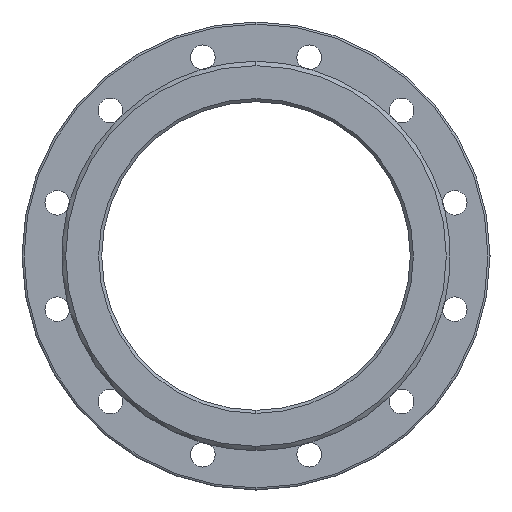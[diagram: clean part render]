
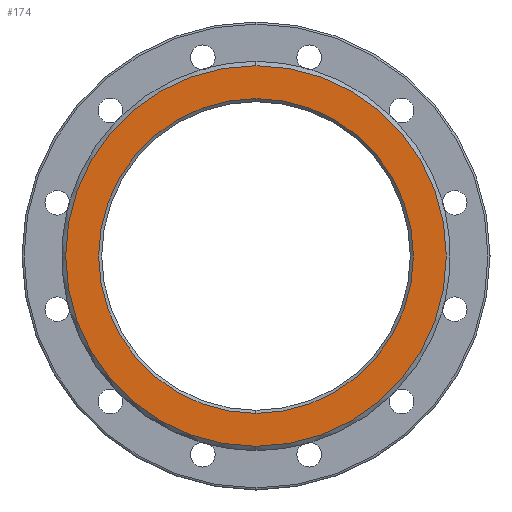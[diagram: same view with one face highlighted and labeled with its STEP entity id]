
A CAD part, left-side view. The second image highlights one B-rep face of the part: STEP entity #174.
In plain terms, the highlighted planar face has unit normal (-1, 0, 0).
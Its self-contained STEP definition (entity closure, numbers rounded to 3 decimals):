
#165 = DIRECTION ( 'NONE',  ( 0., 0., 1. ) ) ;
#174 = ADVANCED_FACE ( 'Defeatured_0_4', ( #4288, #213 ), #1099, .F. ) ;
#213 = FACE_OUTER_BOUND ( 'NONE', #2890, .T. ) ;
#230 = AXIS2_PLACEMENT_3D ( 'NONE', #1452, #3613, #5433 ) ;
#332 = DIRECTION ( 'NONE',  ( 1., 0., 0. ) ) ;
#546 = AXIS2_PLACEMENT_3D ( 'NONE', #1131, #4326, #165 ) ;
#551 = EDGE_CURVE ( 'Defeatured_0_4+Defeatured_0_2+Defeatured_0_2+Defeatured_0_2', #5335, #4298, #2789, .T. ) ;
#579 = ORIENTED_EDGE ( 'NONE', *, *, #2892, .T. ) ;
#605 = CARTESIAN_POINT ( 'NONE',  ( -250., 0., -185. ) ) ;
#613 = VERTEX_POINT ( 'NONE', #1059 ) ;
#807 = EDGE_CURVE ( 'Defeatured_0_4+Defeatured_0_37+Defeatured_0_37+Defeatured_0_37', #613, #984, #4319, .T. ) ;
#817 = ORIENTED_EDGE ( 'NONE', *, *, #551, .T. ) ;
#984 = VERTEX_POINT ( 'NONE', #3439 ) ;
#1059 = CARTESIAN_POINT ( 'NONE',  ( -250., 0., 153. ) ) ;
#1099 = PLANE ( 'NONE',  #5271 ) ;
#1107 = CARTESIAN_POINT ( 'NONE',  ( -250., 0., 185. ) ) ;
#1131 = CARTESIAN_POINT ( 'NONE',  ( -250., 0., 0. ) ) ;
#1200 = DIRECTION ( 'NONE',  ( 1., 0., 0. ) ) ;
#1452 = CARTESIAN_POINT ( 'NONE',  ( -250., 0., 0. ) ) ;
#2057 = CIRCLE ( 'NONE', #546, 185. ) ;
#2214 = DIRECTION ( 'NONE',  ( 0., 0., -1. ) ) ;
#2789 = CIRCLE ( 'NONE', #230, 185. ) ;
#2890 = EDGE_LOOP ( 'NONE', ( #579, #817 ) ) ;
#2892 = EDGE_CURVE ( 'Defeatured_0_4+Defeatured_0_2+Defeatured_0_2+Defeatured_0_2', #4298, #5335, #2057, .T. ) ;
#2916 = DIRECTION ( 'NONE',  ( 0., 0., -1. ) ) ;
#3025 = EDGE_CURVE ( 'Defeatured_0_4+Defeatured_0_37+Defeatured_0_37+Defeatured_0_37', #984, #613, #3151, .T. ) ;
#3151 = CIRCLE ( 'NONE', #5442, 153. ) ;
#3439 = CARTESIAN_POINT ( 'NONE',  ( -250., 0., -153. ) ) ;
#3470 = CARTESIAN_POINT ( 'NONE',  ( -250., 0., 0. ) ) ;
#3580 = DIRECTION ( 'NONE',  ( 0., 0., -1. ) ) ;
#3613 = DIRECTION ( 'NONE',  ( -1., 0., 0. ) ) ;
#3879 = DIRECTION ( 'NONE',  ( 1., 0., 0. ) ) ;
#4226 = AXIS2_PLACEMENT_3D ( 'NONE', #4377, #332, #3580 ) ;
#4235 = ORIENTED_EDGE ( 'NONE', *, *, #807, .T. ) ;
#4288 = FACE_BOUND ( 'NONE', #4569, .T. ) ;
#4298 = VERTEX_POINT ( 'NONE', #605 ) ;
#4319 = CIRCLE ( 'NONE', #4226, 153. ) ;
#4326 = DIRECTION ( 'NONE',  ( -1., 0., 0. ) ) ;
#4356 = CARTESIAN_POINT ( 'NONE',  ( -250., 150., 0. ) ) ;
#4377 = CARTESIAN_POINT ( 'NONE',  ( -250., 0., 0. ) ) ;
#4569 = EDGE_LOOP ( 'NONE', ( #4235, #4901 ) ) ;
#4901 = ORIENTED_EDGE ( 'NONE', *, *, #3025, .T. ) ;
#5271 = AXIS2_PLACEMENT_3D ( 'NONE', #4356, #3879, #2916 ) ;
#5335 = VERTEX_POINT ( 'NONE', #1107 ) ;
#5433 = DIRECTION ( 'NONE',  ( 0., 0., 1. ) ) ;
#5442 = AXIS2_PLACEMENT_3D ( 'NONE', #3470, #1200, #2214 ) ;
